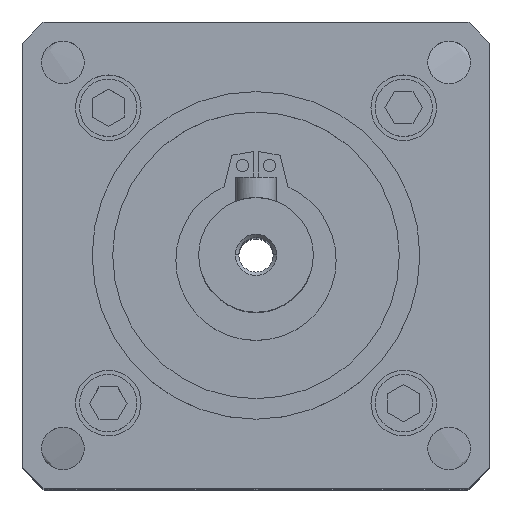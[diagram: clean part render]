
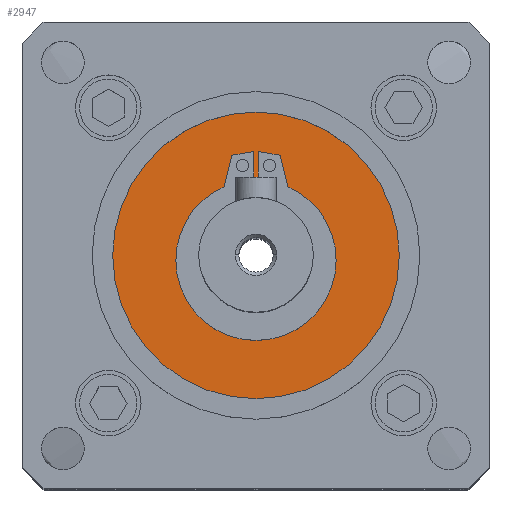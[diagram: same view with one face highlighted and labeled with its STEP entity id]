
A CAD part, top view. The second image highlights one B-rep face of the part: STEP entity #2947.
In plain terms, the highlighted planar face has unit normal (0, 0, 1).
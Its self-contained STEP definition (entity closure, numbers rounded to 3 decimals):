
#51 = CARTESIAN_POINT ( 'NONE',  ( 0., 0., 81. ) ) ;
#126 = CIRCLE ( 'NONE', #2953, 17.5 ) ;
#134 = AXIS2_PLACEMENT_3D ( 'NONE', #5007, #8066, #7441 ) ;
#142 = ORIENTED_EDGE ( 'NONE', *, *, #774, .F. ) ;
#660 = CIRCLE ( 'NONE', #2002, 9.785 ) ;
#690 = DIRECTION ( 'NONE',  ( 1., 0., 0. ) ) ;
#774 = EDGE_CURVE ( 'NONE', #5857, #5736, #4509, .T. ) ;
#1046 = CARTESIAN_POINT ( 'NONE',  ( 0.3, 12.685, 81. ) ) ;
#1109 = CARTESIAN_POINT ( 'NONE',  ( 0., 0., 81. ) ) ;
#1293 = EDGE_CURVE ( 'NONE', #2761, #3354, #2843, .T. ) ;
#1418 = ORIENTED_EDGE ( 'NONE', *, *, #8192, .F. ) ;
#1427 = VECTOR ( 'NONE', #4688, 1000. ) ;
#1492 = CIRCLE ( 'NONE', #8016, 17.5 ) ;
#1573 = CARTESIAN_POINT ( 'NONE',  ( -9.785, -0.6, 81. ) ) ;
#1580 = DIRECTION ( 'NONE',  ( 0., -1., 0. ) ) ;
#1590 = ORIENTED_EDGE ( 'NONE', *, *, #6519, .F. ) ;
#1593 = LINE ( 'NONE', #4096, #4621 ) ;
#1647 = VERTEX_POINT ( 'NONE', #3784 ) ;
#1785 = EDGE_CURVE ( 'NONE', #7633, #2761, #2688, .T. ) ;
#1788 = EDGE_CURVE ( 'NONE', #1647, #5857, #1593, .T. ) ;
#1921 = DIRECTION ( 'NONE',  ( 0., 0., 1. ) ) ;
#1933 = DIRECTION ( 'NONE',  ( 0., 1., 0. ) ) ;
#1981 = CARTESIAN_POINT ( 'NONE',  ( -0.3, 9.185, 81. ) ) ;
#2002 = AXIS2_PLACEMENT_3D ( 'NONE', #2043, #4080, #2754 ) ;
#2035 = CARTESIAN_POINT ( 'NONE',  ( 0., 0., 81. ) ) ;
#2043 = CARTESIAN_POINT ( 'NONE',  ( 0., -0.6, 81. ) ) ;
#2110 = VERTEX_POINT ( 'NONE', #7780 ) ;
#2170 = ORIENTED_EDGE ( 'NONE', *, *, #5303, .F. ) ;
#2297 = LINE ( 'NONE', #4801, #2999 ) ;
#2353 = DIRECTION ( 'NONE',  ( -0.985, -0.174, 0. ) ) ;
#2578 = VERTEX_POINT ( 'NONE', #1573 ) ;
#2688 = LINE ( 'NONE', #7310, #1427 ) ;
#2754 = DIRECTION ( 'NONE',  ( 1., 0., 0. ) ) ;
#2761 = VERTEX_POINT ( 'NONE', #7031 ) ;
#2843 = LINE ( 'NONE', #4755, #5036 ) ;
#2873 = CARTESIAN_POINT ( 'NONE',  ( 3.89, 8.378, 81. ) ) ;
#2947 = ADVANCED_FACE ( 'NONE', ( #7074, #5169 ), #7678, .F. ) ;
#2953 = AXIS2_PLACEMENT_3D ( 'NONE', #1109, #1921, #3211 ) ;
#2963 = ORIENTED_EDGE ( 'NONE', *, *, #4318, .T. ) ;
#2999 = VECTOR ( 'NONE', #1580, 1000. ) ;
#3007 = CARTESIAN_POINT ( 'NONE',  ( -0.3, 12.685, 81. ) ) ;
#3009 = EDGE_CURVE ( 'NONE', #5736, #3882, #8056, .T. ) ;
#3056 = CARTESIAN_POINT ( 'NONE',  ( 17.5, 0., 81. ) ) ;
#3211 = DIRECTION ( 'NONE',  ( 1., 0., 0. ) ) ;
#3224 = ORIENTED_EDGE ( 'NONE', *, *, #1785, .F. ) ;
#3298 = VECTOR ( 'NONE', #1933, 1000. ) ;
#3354 = VERTEX_POINT ( 'NONE', #1046 ) ;
#3437 = ORIENTED_EDGE ( 'NONE', *, *, #4839, .F. ) ;
#3722 = LINE ( 'NONE', #6351, #7216 ) ;
#3743 = ORIENTED_EDGE ( 'NONE', *, *, #3009, .F. ) ;
#3761 = AXIS2_PLACEMENT_3D ( 'NONE', #4596, #5815, #5194 ) ;
#3784 = CARTESIAN_POINT ( 'NONE',  ( 0.3, 9.185, 81. ) ) ;
#3882 = VERTEX_POINT ( 'NONE', #3915 ) ;
#3915 = CARTESIAN_POINT ( 'NONE',  ( -2.959, 12.216, 81. ) ) ;
#4080 = DIRECTION ( 'NONE',  ( 0., 0., 1. ) ) ;
#4096 = CARTESIAN_POINT ( 'NONE',  ( -0.3, 9.185, 81. ) ) ;
#4318 = EDGE_CURVE ( 'NONE', #2110, #6440, #126, .T. ) ;
#4402 = EDGE_CURVE ( 'NONE', #6206, #2578, #660, .T. ) ;
#4509 = LINE ( 'NONE', #5782, #3298 ) ;
#4596 = CARTESIAN_POINT ( 'NONE',  ( 0., -0.6, 81. ) ) ;
#4621 = VECTOR ( 'NONE', #4644, 1000. ) ;
#4644 = DIRECTION ( 'NONE',  ( -1., 0., 0. ) ) ;
#4688 = DIRECTION ( 'NONE',  ( -0.236, 0.972, 0. ) ) ;
#4755 = CARTESIAN_POINT ( 'NONE',  ( 0.3, 12.685, 81. ) ) ;
#4801 = CARTESIAN_POINT ( 'NONE',  ( 0.3, 9.185, 81. ) ) ;
#4839 = EDGE_CURVE ( 'NONE', #5074, #7633, #7071, .T. ) ;
#5007 = CARTESIAN_POINT ( 'NONE',  ( 0., -0.6, 81. ) ) ;
#5036 = VECTOR ( 'NONE', #5435, 1000. ) ;
#5060 = AXIS2_PLACEMENT_3D ( 'NONE', #51, #7313, #6704 ) ;
#5074 = VERTEX_POINT ( 'NONE', #6866 ) ;
#5169 = FACE_OUTER_BOUND ( 'NONE', #8029, .T. ) ;
#5194 = DIRECTION ( 'NONE',  ( 1., 0., 0. ) ) ;
#5195 = EDGE_LOOP ( 'NONE', ( #7458, #1590, #3743, #142, #5472, #1418, #6875, #3224, #3437, #2170 ) ) ;
#5303 = EDGE_CURVE ( 'NONE', #2578, #5074, #7483, .T. ) ;
#5435 = DIRECTION ( 'NONE',  ( -0.985, 0.174, 0. ) ) ;
#5472 = ORIENTED_EDGE ( 'NONE', *, *, #1788, .F. ) ;
#5599 = EDGE_CURVE ( 'NONE', #6440, #2110, #1492, .T. ) ;
#5736 = VERTEX_POINT ( 'NONE', #3007 ) ;
#5782 = CARTESIAN_POINT ( 'NONE',  ( -0.3, 9.185, 81. ) ) ;
#5796 = DIRECTION ( 'NONE',  ( 0., 0., 1. ) ) ;
#5815 = DIRECTION ( 'NONE',  ( 0., 0., 1. ) ) ;
#5816 = ORIENTED_EDGE ( 'NONE', *, *, #5599, .T. ) ;
#5857 = VERTEX_POINT ( 'NONE', #1981 ) ;
#6206 = VERTEX_POINT ( 'NONE', #6397 ) ;
#6351 = CARTESIAN_POINT ( 'NONE',  ( -2.959, 12.216, 81. ) ) ;
#6386 = DIRECTION ( 'NONE',  ( -0.236, -0.972, 0. ) ) ;
#6397 = CARTESIAN_POINT ( 'NONE',  ( -3.89, 8.378, 81. ) ) ;
#6440 = VERTEX_POINT ( 'NONE', #3056 ) ;
#6519 = EDGE_CURVE ( 'NONE', #3882, #6206, #3722, .T. ) ;
#6704 = DIRECTION ( 'NONE',  ( -1., 0., 0. ) ) ;
#6866 = CARTESIAN_POINT ( 'NONE',  ( 9.785, -0.6, 81. ) ) ;
#6875 = ORIENTED_EDGE ( 'NONE', *, *, #1293, .F. ) ;
#6914 = VECTOR ( 'NONE', #2353, 1000. ) ;
#7031 = CARTESIAN_POINT ( 'NONE',  ( 2.959, 12.216, 81. ) ) ;
#7071 = CIRCLE ( 'NONE', #134, 9.785 ) ;
#7074 = FACE_BOUND ( 'NONE', #5195, .T. ) ;
#7216 = VECTOR ( 'NONE', #6386, 1000. ) ;
#7310 = CARTESIAN_POINT ( 'NONE',  ( 2.959, 12.216, 81. ) ) ;
#7313 = DIRECTION ( 'NONE',  ( 0., 0., -1. ) ) ;
#7441 = DIRECTION ( 'NONE',  ( 1., 0., 0. ) ) ;
#7458 = ORIENTED_EDGE ( 'NONE', *, *, #4402, .F. ) ;
#7483 = CIRCLE ( 'NONE', #3761, 9.785 ) ;
#7508 = CARTESIAN_POINT ( 'NONE',  ( -0.3, 12.685, 81. ) ) ;
#7633 = VERTEX_POINT ( 'NONE', #2873 ) ;
#7678 = PLANE ( 'NONE',  #5060 ) ;
#7780 = CARTESIAN_POINT ( 'NONE',  ( -17.5, 0., 81. ) ) ;
#8016 = AXIS2_PLACEMENT_3D ( 'NONE', #2035, #5796, #690 ) ;
#8029 = EDGE_LOOP ( 'NONE', ( #2963, #5816 ) ) ;
#8056 = LINE ( 'NONE', #7508, #6914 ) ;
#8066 = DIRECTION ( 'NONE',  ( 0., 0., 1. ) ) ;
#8192 = EDGE_CURVE ( 'NONE', #3354, #1647, #2297, .T. ) ;
